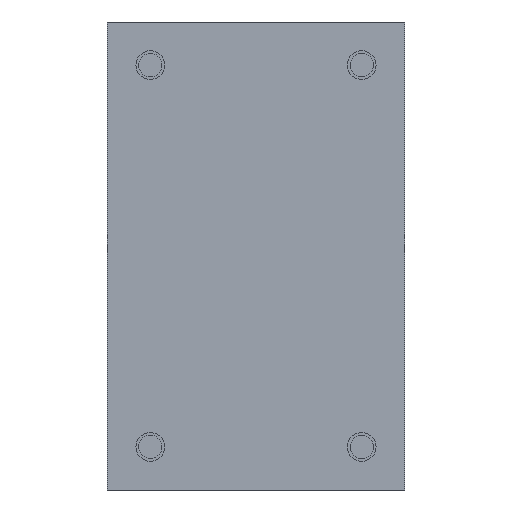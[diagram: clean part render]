
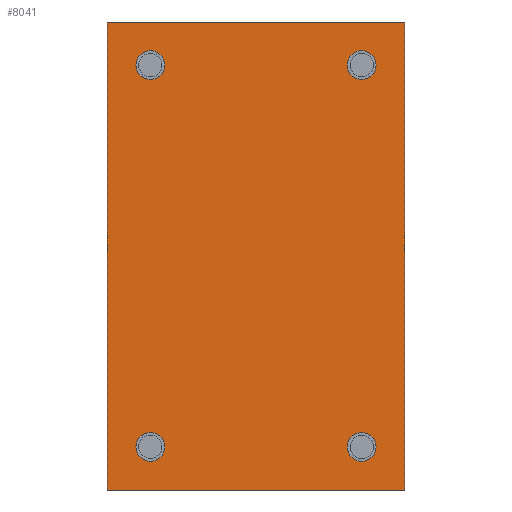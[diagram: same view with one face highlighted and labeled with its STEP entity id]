
A CAD part, front view. The second image highlights one B-rep face of the part: STEP entity #8041.
In plain terms, the highlighted planar face has unit normal (0, -1, 0).
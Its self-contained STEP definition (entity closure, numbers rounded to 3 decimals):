
#130 = CARTESIAN_POINT ( 'NONE',  ( -13.081, 0., -21.844 ) ) ;
#331 = CARTESIAN_POINT ( 'NONE',  ( -18.415, 0., 28.956 ) ) ;
#414 = CARTESIAN_POINT ( 'NONE',  ( -13.081, 0., 25.4 ) ) ;
#666 = FACE_BOUND ( 'NONE', #21152, .T. ) ;
#774 = CIRCLE ( 'NONE', #5826, 1.778 ) ;
#913 = ORIENTED_EDGE ( 'NONE', *, *, #20619, .F. ) ;
#1172 = EDGE_LOOP ( 'NONE', ( #913, #9609, #13273, #13514 ) ) ;
#1267 = AXIS2_PLACEMENT_3D ( 'NONE', #13805, #11718, #10151 ) ;
#1458 = CARTESIAN_POINT ( 'NONE',  ( -18.415, 0., 28.956 ) ) ;
#2114 = EDGE_CURVE ( 'NONE', #15945, #5661, #774, .T. ) ;
#2123 = AXIS2_PLACEMENT_3D ( 'NONE', #13159, #23722, #11324 ) ;
#2477 = DIRECTION ( 'NONE',  ( 1., 0., 0. ) ) ;
#2686 = DIRECTION ( 'NONE',  ( 0., 0., -1. ) ) ;
#2878 = CARTESIAN_POINT ( 'NONE',  ( -13.081, 0., 23.622 ) ) ;
#2956 = EDGE_CURVE ( 'NONE', #17394, #12877, #14849, .T. ) ;
#3079 = DIRECTION ( 'NONE',  ( 0., -1., 0. ) ) ;
#3241 = CIRCLE ( 'NONE', #22600, 1.778 ) ;
#3330 = EDGE_CURVE ( 'NONE', #15104, #11088, #9519, .T. ) ;
#3644 = DIRECTION ( 'NONE',  ( 0., 0., -1. ) ) ;
#4494 = CARTESIAN_POINT ( 'NONE',  ( -13.081, 0., -25.4 ) ) ;
#4616 = LINE ( 'NONE', #20516, #21975 ) ;
#4858 = CARTESIAN_POINT ( 'NONE',  ( -13.081, 0., 21.844 ) ) ;
#4883 = DIRECTION ( 'NONE',  ( 0., -1., 0. ) ) ;
#5661 = VERTEX_POINT ( 'NONE', #4494 ) ;
#5719 = ORIENTED_EDGE ( 'NONE', *, *, #23078, .F. ) ;
#5826 = AXIS2_PLACEMENT_3D ( 'NONE', #23815, #25562, #3644 ) ;
#6312 = EDGE_CURVE ( 'NONE', #11829, #8463, #21458, .T. ) ;
#6338 = CIRCLE ( 'NONE', #2123, 1.778 ) ;
#6626 = FACE_BOUND ( 'NONE', #16030, .T. ) ;
#6759 = FACE_BOUND ( 'NONE', #12000, .T. ) ;
#6903 = VERTEX_POINT ( 'NONE', #11426 ) ;
#7175 = CIRCLE ( 'NONE', #1267, 1.778 ) ;
#7363 = VECTOR ( 'NONE', #21236, 1000. ) ;
#7694 = DIRECTION ( 'NONE',  ( 0., 0., -1. ) ) ;
#8002 = ORIENTED_EDGE ( 'NONE', *, *, #10636, .F. ) ;
#8041 = ADVANCED_FACE ( 'NONE', ( #6759, #13065, #666, #6626, #24559 ), #9019, .F. ) ;
#8334 = CIRCLE ( 'NONE', #12507, 1.778 ) ;
#8463 = VERTEX_POINT ( 'NONE', #4858 ) ;
#8470 = EDGE_CURVE ( 'NONE', #15104, #25601, #22920, .T. ) ;
#8648 = DIRECTION ( 'NONE',  ( 0., -1., 0. ) ) ;
#9019 = PLANE ( 'NONE',  #24541 ) ;
#9519 = LINE ( 'NONE', #11491, #7363 ) ;
#9609 = ORIENTED_EDGE ( 'NONE', *, *, #3330, .F. ) ;
#10098 = AXIS2_PLACEMENT_3D ( 'NONE', #11259, #3079, #15452 ) ;
#10151 = DIRECTION ( 'NONE',  ( 0., 0., -1. ) ) ;
#10438 = DIRECTION ( 'NONE',  ( 1., 0., 0. ) ) ;
#10636 = EDGE_CURVE ( 'NONE', #5661, #15945, #3241, .T. ) ;
#11088 = VERTEX_POINT ( 'NONE', #18880 ) ;
#11259 = CARTESIAN_POINT ( 'NONE',  ( -13.081, 0., 23.622 ) ) ;
#11324 = DIRECTION ( 'NONE',  ( 0., 0., -1. ) ) ;
#11426 = CARTESIAN_POINT ( 'NONE',  ( 18.415, 0., -28.956 ) ) ;
#11491 = CARTESIAN_POINT ( 'NONE',  ( -18.415, 0., 28.956 ) ) ;
#11649 = CARTESIAN_POINT ( 'NONE',  ( 13.081, 0., -21.844 ) ) ;
#11718 = DIRECTION ( 'NONE',  ( 0., -1., 0. ) ) ;
#11761 = CARTESIAN_POINT ( 'NONE',  ( 13.081, 0., -25.4 ) ) ;
#11829 = VERTEX_POINT ( 'NONE', #414 ) ;
#12000 = EDGE_LOOP ( 'NONE', ( #5719, #25442 ) ) ;
#12294 = VECTOR ( 'NONE', #14567, 1000. ) ;
#12403 = VECTOR ( 'NONE', #17845, 1000. ) ;
#12507 = AXIS2_PLACEMENT_3D ( 'NONE', #2878, #4883, #12892 ) ;
#12714 = CARTESIAN_POINT ( 'NONE',  ( -13.081, 0., -23.622 ) ) ;
#12877 = VERTEX_POINT ( 'NONE', #11761 ) ;
#12892 = DIRECTION ( 'NONE',  ( 0., 0., -1. ) ) ;
#12956 = CARTESIAN_POINT ( 'NONE',  ( 13.081, 0., -23.622 ) ) ;
#13065 = FACE_BOUND ( 'NONE', #19475, .T. ) ;
#13159 = CARTESIAN_POINT ( 'NONE',  ( 13.081, 0., 23.622 ) ) ;
#13273 = ORIENTED_EDGE ( 'NONE', *, *, #8470, .T. ) ;
#13341 = CARTESIAN_POINT ( 'NONE',  ( 13.081, 0., 21.844 ) ) ;
#13514 = ORIENTED_EDGE ( 'NONE', *, *, #19079, .T. ) ;
#13604 = CARTESIAN_POINT ( 'NONE',  ( 18.415, 0., 28.956 ) ) ;
#13805 = CARTESIAN_POINT ( 'NONE',  ( 13.081, 0., 23.622 ) ) ;
#14567 = DIRECTION ( 'NONE',  ( 0., 0., -1. ) ) ;
#14679 = DIRECTION ( 'NONE',  ( 0., 0., -1. ) ) ;
#14775 = VERTEX_POINT ( 'NONE', #18788 ) ;
#14849 = CIRCLE ( 'NONE', #19078, 1.778 ) ;
#15104 = VERTEX_POINT ( 'NONE', #1458 ) ;
#15261 = EDGE_CURVE ( 'NONE', #14775, #21690, #6338, .T. ) ;
#15452 = DIRECTION ( 'NONE',  ( 0., 0., -1. ) ) ;
#15845 = EDGE_CURVE ( 'NONE', #12877, #17394, #15851, .T. ) ;
#15851 = CIRCLE ( 'NONE', #24729, 1.778 ) ;
#15945 = VERTEX_POINT ( 'NONE', #130 ) ;
#16030 = EDGE_LOOP ( 'NONE', ( #18454, #24763 ) ) ;
#17033 = CARTESIAN_POINT ( 'NONE',  ( -18.415, 0., 28.956 ) ) ;
#17394 = VERTEX_POINT ( 'NONE', #11649 ) ;
#17452 = LINE ( 'NONE', #13604, #12403 ) ;
#17845 = DIRECTION ( 'NONE',  ( 0., 0., -1. ) ) ;
#18454 = ORIENTED_EDGE ( 'NONE', *, *, #15845, .F. ) ;
#18624 = DIRECTION ( 'NONE',  ( 0., 1., 0. ) ) ;
#18788 = CARTESIAN_POINT ( 'NONE',  ( 13.081, 0., 25.4 ) ) ;
#18880 = CARTESIAN_POINT ( 'NONE',  ( 18.415, 0., 28.956 ) ) ;
#19012 = EDGE_CURVE ( 'NONE', #21690, #14775, #7175, .T. ) ;
#19078 = AXIS2_PLACEMENT_3D ( 'NONE', #12956, #8648, #2686 ) ;
#19079 = EDGE_CURVE ( 'NONE', #25601, #6903, #4616, .T. ) ;
#19222 = CARTESIAN_POINT ( 'NONE',  ( -18.415, 0., -28.956 ) ) ;
#19475 = EDGE_LOOP ( 'NONE', ( #20197, #21872 ) ) ;
#20197 = ORIENTED_EDGE ( 'NONE', *, *, #19012, .F. ) ;
#20516 = CARTESIAN_POINT ( 'NONE',  ( -18.415, 0., -28.956 ) ) ;
#20619 = EDGE_CURVE ( 'NONE', #11088, #6903, #17452, .T. ) ;
#21152 = EDGE_LOOP ( 'NONE', ( #8002, #21996 ) ) ;
#21236 = DIRECTION ( 'NONE',  ( 1., 0., 0. ) ) ;
#21458 = CIRCLE ( 'NONE', #10098, 1.778 ) ;
#21690 = VERTEX_POINT ( 'NONE', #13341 ) ;
#21872 = ORIENTED_EDGE ( 'NONE', *, *, #15261, .F. ) ;
#21975 = VECTOR ( 'NONE', #2477, 1000. ) ;
#21996 = ORIENTED_EDGE ( 'NONE', *, *, #2114, .F. ) ;
#22600 = AXIS2_PLACEMENT_3D ( 'NONE', #12714, #24877, #14679 ) ;
#22920 = LINE ( 'NONE', #331, #12294 ) ;
#23078 = EDGE_CURVE ( 'NONE', #8463, #11829, #8334, .T. ) ;
#23722 = DIRECTION ( 'NONE',  ( 0., -1., 0. ) ) ;
#23815 = CARTESIAN_POINT ( 'NONE',  ( -13.081, 0., -23.622 ) ) ;
#24035 = CARTESIAN_POINT ( 'NONE',  ( 13.081, 0., -23.622 ) ) ;
#24541 = AXIS2_PLACEMENT_3D ( 'NONE', #17033, #18624, #10438 ) ;
#24559 = FACE_OUTER_BOUND ( 'NONE', #1172, .T. ) ;
#24729 = AXIS2_PLACEMENT_3D ( 'NONE', #24035, #26027, #7694 ) ;
#24763 = ORIENTED_EDGE ( 'NONE', *, *, #2956, .F. ) ;
#24877 = DIRECTION ( 'NONE',  ( 0., -1., 0. ) ) ;
#25442 = ORIENTED_EDGE ( 'NONE', *, *, #6312, .F. ) ;
#25562 = DIRECTION ( 'NONE',  ( 0., -1., 0. ) ) ;
#25601 = VERTEX_POINT ( 'NONE', #19222 ) ;
#26027 = DIRECTION ( 'NONE',  ( 0., -1., 0. ) ) ;
